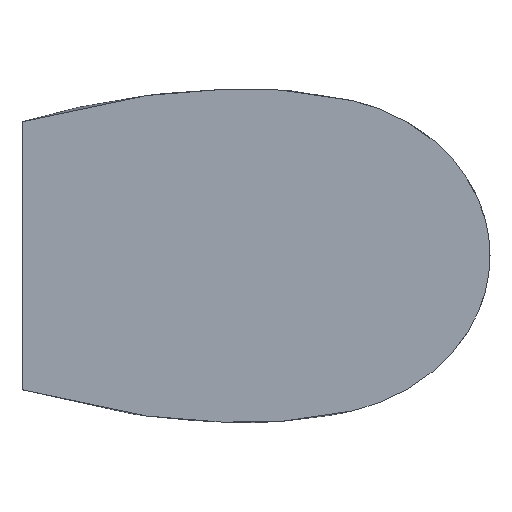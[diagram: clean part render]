
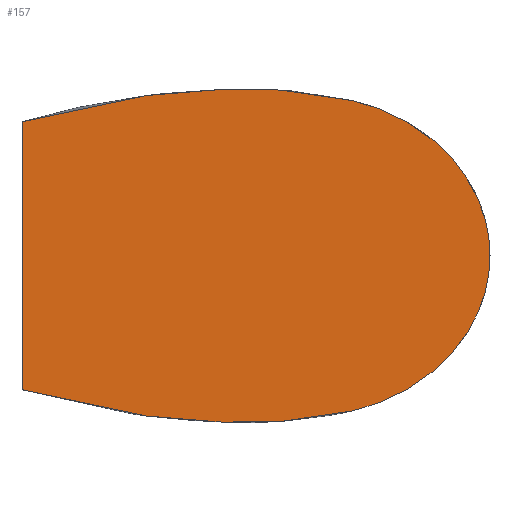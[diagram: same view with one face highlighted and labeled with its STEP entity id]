
A CAD part, left-side view. The second image highlights one B-rep face of the part: STEP entity #157.
In plain terms, the highlighted planar face has unit normal (-1, 0, 0).
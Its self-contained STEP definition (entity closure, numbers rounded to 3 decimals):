
#2=DIRECTION('',(0.,0.,-1.));
#3=VECTOR('',#2,1.735);
#4=CARTESIAN_POINT('',(-9.,-0.3,0.868));
#5=LINE('',#4,#3);
#10=CARTESIAN_POINT('',(-9.,-0.3,0.868));
#11=CARTESIAN_POINT('',(-9.,-0.421,0.904));
#12=CARTESIAN_POINT('',(-9.,-0.663,0.966));
#13=CARTESIAN_POINT('',(-9.,-0.966,1.02));
#14=CARTESIAN_POINT('',(-9.,-1.215,1.051));
#15=CARTESIAN_POINT('',(-9.,-1.405,1.066));
#16=CARTESIAN_POINT('',(-9.,-1.599,1.078));
#17=CARTESIAN_POINT('',(-9.,-1.811,1.082));
#18=CARTESIAN_POINT('',(-9.,-2.045,1.07));
#19=CARTESIAN_POINT('',(-9.,-2.298,1.037));
#20=CARTESIAN_POINT('',(-9.,-2.554,0.981));
#21=CARTESIAN_POINT('',(-9.,-2.798,0.873));
#22=CARTESIAN_POINT('',(-9.,-3.016,0.715));
#23=CARTESIAN_POINT('',(-9.,-3.191,0.508));
#24=CARTESIAN_POINT('',(-9.,-3.304,0.263));
#25=CARTESIAN_POINT('',(-9.,-3.329,0.087));
#26=CARTESIAN_POINT('',(-9.,-3.329,0.));
#28=CARTESIAN_POINT('',(-9.,-0.3,-0.868));
#29=CARTESIAN_POINT('',(-9.,-0.421,-0.904));
#30=CARTESIAN_POINT('',(-9.,-0.663,-0.966));
#31=CARTESIAN_POINT('',(-9.,-0.966,-1.02));
#32=CARTESIAN_POINT('',(-9.,-1.215,-1.051));
#33=CARTESIAN_POINT('',(-9.,-1.405,-1.066));
#34=CARTESIAN_POINT('',(-9.,-1.599,-1.078));
#35=CARTESIAN_POINT('',(-9.,-1.811,-1.082));
#36=CARTESIAN_POINT('',(-9.,-2.045,-1.07));
#37=CARTESIAN_POINT('',(-9.,-2.298,-1.037));
#38=CARTESIAN_POINT('',(-9.,-2.554,-0.981));
#39=CARTESIAN_POINT('',(-9.,-2.798,-0.873));
#40=CARTESIAN_POINT('',(-9.,-3.016,-0.715));
#41=CARTESIAN_POINT('',(-9.,-3.191,-0.508));
#42=CARTESIAN_POINT('',(-9.,-3.304,-0.263));
#43=CARTESIAN_POINT('',(-9.,-3.329,-0.087));
#44=CARTESIAN_POINT('',(-9.,-3.329,0.));
#122=CARTESIAN_POINT('',(-9.,-0.3,0.868));
#123=CARTESIAN_POINT('',(-9.,-0.3,-0.868));
#124=VERTEX_POINT('',#122);
#125=VERTEX_POINT('',#123);
#126=VERTEX_POINT('',#26);
#145=CARTESIAN_POINT('',(-9.,0.,0.));
#146=DIRECTION('',(1.,0.,0.));
#147=DIRECTION('',(0.,0.,-1.));
#148=AXIS2_PLACEMENT_3D('',#145,#146,#147);
#149=PLANE('',#148);
#150=ORIENTED_EDGE('',*,*,#132,.F.);
#152=ORIENTED_EDGE('',*,*,#151,.T.);
#154=ORIENTED_EDGE('',*,*,#153,.F.);
#155=EDGE_LOOP('',(#150,#152,#154));
#156=FACE_OUTER_BOUND('',#155,.F.);
#157=ADVANCED_FACE('',(#156),#149,.F.);
#27=B_SPLINE_CURVE_WITH_KNOTS('',3,(#10,#11,#12,#13,#14,#15,#16,#17,#18,#19,#20,
#21,#22,#23,#24,#25,#26),.UNSPECIFIED.,.F.,.F.,(4,1,1,1,1,1,1,1,1,1,1,1,1,1,4),(
0.,0.114,0.228,0.285,0.343,
0.4,0.457,0.525,0.593,
0.66,0.728,0.796,0.864,
0.932,1.),.UNSPECIFIED.);
#45=B_SPLINE_CURVE_WITH_KNOTS('',3,(#28,#29,#30,#31,#32,#33,#34,#35,#36,#37,#38,
#39,#40,#41,#42,#43,#44),.UNSPECIFIED.,.F.,.F.,(4,1,1,1,1,1,1,1,1,1,1,1,1,1,4),(
0.,0.114,0.228,0.285,0.343,
0.4,0.457,0.525,0.593,
0.66,0.728,0.796,0.864,
0.932,1.),.UNSPECIFIED.);
#132=EDGE_CURVE('',#124,#125,#5,.T.);
#151=EDGE_CURVE('',#124,#126,#27,.T.);
#153=EDGE_CURVE('',#125,#126,#45,.T.);
